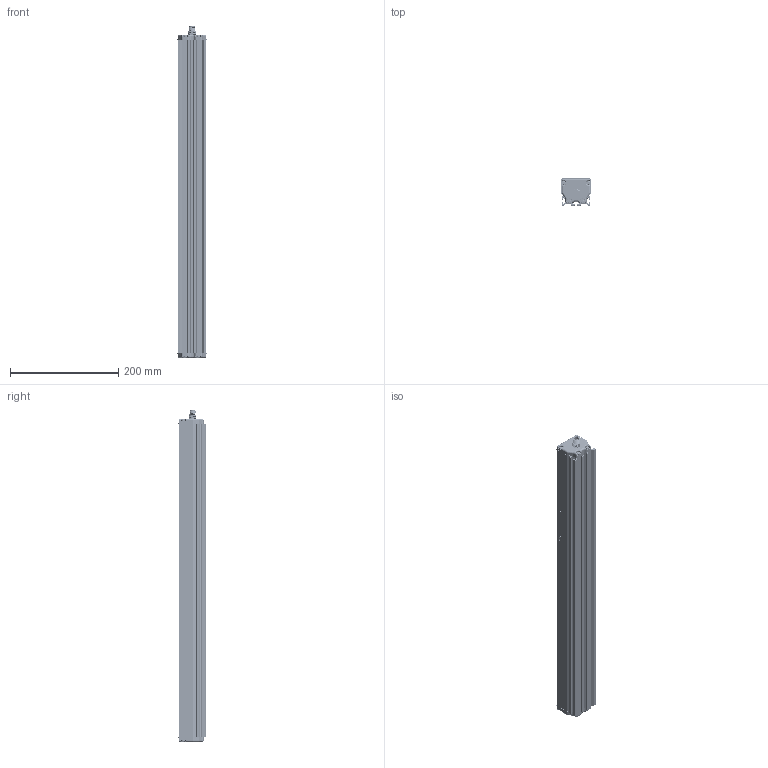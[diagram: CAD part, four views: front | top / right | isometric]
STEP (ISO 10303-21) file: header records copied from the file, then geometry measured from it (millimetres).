
FILE_DESCRIPTION (( 'STEP AP214' ), '1' );
FILE_NAME ('LSR 600.STEP', '2022-02-03T12:06:05', ( '' ), ( '' ), 'SwSTEP 2.0', 'SolidWorks 2021', '' );
FILE_SCHEMA (( 'AUTOMOTIVE_DESIGN' ));
Length unit declared in the file: millimetre
Products named in the file (37): S7B-XH-A-1.step; SSW_105_02_T_D_RA; BLACK WIRE; LTF DRIVER BOARD ASY; LTF END CAP GASKET; BLUE WIRE; LTF CLEAR LENS COVER_578; _TSW-102-15-S-D_body; LTF DRIVER BOARD; END CAP CONN ASY; HSG0205 LSR END CAP CONN; END CAP ASY; JST-xH 7pin Female; WHITE WIRE; CREE PLCC8-CLQ6A; 4 PIN CONNECTOR; SSW_105_02_T_D_RA_5; (6-32 - 1_2 THREAD FORMING) (SC0136) 94209A520_THREAD-FORMING SCREW FOR SOFT METAL_94209A520; BROWN WIRE; HSG0204 LSR END CAP NON-CONN; LSR SINGLE ROW LED BOARD; SSW_105_02_T_D_RA_3; M12_Male - Long; SPLICE HEATSHRINK; LSR 600; GASKET 2; LSR LED BRD SINGLE ROW ASY; CBL0080; BROWN SHORT WIRE; GRAY WIRE; GASKET 2_600; LEDil TINA JB 4-7-2020 ; SOLDER PAD; 68021-x10; LTF EXT0250 REV 14_LTF 578; _T-1S6-09-TSW-1-15-2-D; BLUE SHORT WIRE
Assembly tree (64 placements, depth 4):
  LSR 600
    LTF EXT0250 REV 14_LTF 578
    LTF DRIVER BOARD ASY  x2
      LTF DRIVER BOARD
      SSW_105_02_T_D_RA
        SSW_105_02_T_D_RA_3
        SSW_105_02_T_D_RA_5
      68021-x10
      S7B-XH-A-1.step
      4 PIN CONNECTOR
        _TSW-102-15-S-D_body
        _T-1S6-09-TSW-1-15-2-D
        SOLDER PAD
      CREE PLCC8-CLQ6A
    LSR LED BRD SINGLE ROW ASY  x2
      LSR SINGLE ROW LED BOARD
      LEDil TINA JB 4-7-2020 
    LTF CLEAR LENS COVER_578
    GASKET 2_600
    GASKET 2
    END CAP CONN ASY
      HSG0205 LSR END CAP CONN
      CBL0080
        GRAY WIRE
        BLACK WIRE
        WHITE WIRE
        JST-xH 7pin Female
        M12_Male - Long
        BLUE SHORT WIRE
        BROWN SHORT WIRE
        BLUE WIRE  x2
        BROWN WIRE  x2
        SPLICE HEATSHRINK  x2
      LTF END CAP GASKET
    END CAP ASY
      HSG0204 LSR END CAP NON-CONN
      LTF END CAP GASKET
    (6-32 - 1_2 THREAD FORMING) (SC0136) 94209A520_THREAD-FORMING SCREW FOR SOFT METAL_94209A520  x8
Bounding box: 54.2 x 50 x 613.2 mm (x, y, z)
Volume: 612335.9 mm3; surface area: 525509 mm2
Topology: 131 solids, 194 shells, 15324 faces, 40190 edges, 25072 vertices
Faces by surface type: bspline 5908, plane 4263, cylinder 3945, cone 1134, torus 66, sphere 8
Entity records: 150226 total; most frequent: CARTESIAN_POINT 68594, ORIENTED_EDGE 17204, DIRECTION 12794, EDGE_CURVE 8622, VERTEX_POINT 5592, LINE 4566, VECTOR 4566, AXIS2_PLACEMENT_3D 4114
